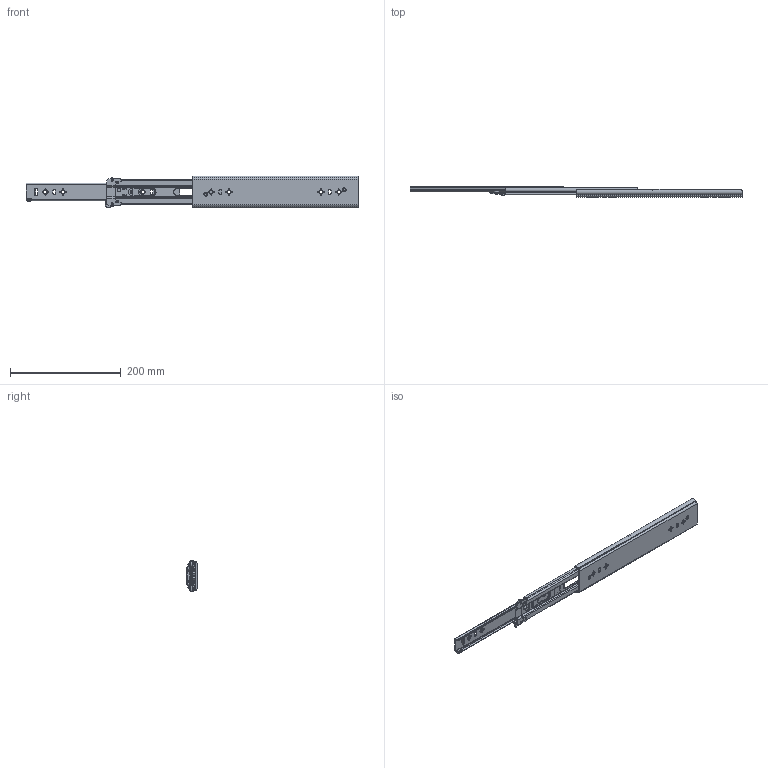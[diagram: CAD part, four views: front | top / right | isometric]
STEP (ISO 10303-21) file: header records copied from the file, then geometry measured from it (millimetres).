
FILE_DESCRIPTION((''),'2;1');
FILE_NAME('1057-C-12_ASM','2025-10-22T',('蔽翩'),(''),'CREO PARAMETRIC BY PTC INC, 2018220','CREO PARAMETRIC BY PTC INC, 2018220','');
FILE_SCHEMA(('CONFIG_CONTROL_DESIGN'));
Length unit declared in the file: millimetre
Products named in the file (20): KP-57-01WEIKE-31____; MAODING-WAI____; 1057DAZHUJIA-20GE1____; 1057ZHUJIADANWEIJIAO123; 1057-5-6GANZHU1____; 1057DAZHUJIA-20GE_11________ASM; 1057-C-20-KE_____ASM; KP-57-01ZHONGGUI-28_________; PEIJIAN-22____; ZHUANJIAO112____; LIUJIAO-DING11____; 1057-XIAOJIAOLUN; PEIJIAN-ZHONG_____ASM; 1057XIAOZHUJIA___20_____; 1057XIAOZHUJIA-20GE______ASM; KP-57-01ZHONGGUI-28__________ASM; KP-57-01NEIGUI-241____; XIN-JIAOGUAN; KP-57-01NEIGUI-241_____ASM; 1057-C-12_ASM
Assembly tree (50 placements, depth 4):
  1057-C-12_ASM
    1057-C-20-KE_____ASM
      KP-57-01WEIKE-31____
      MAODING-WAI____  x2
      1057DAZHUJIA-20GE_11________ASM
        1057DAZHUJIA-20GE1____
        1057ZHUJIADANWEIJIAO123  x2
        1057-5-6GANZHU1____  x12
    KP-57-01ZHONGGUI-28__________ASM
      KP-57-01ZHONGGUI-28_________
      PEIJIAN-ZHONG_____ASM  x2
        PEIJIAN-22____
        ZHUANJIAO112____
        LIUJIAO-DING11____
        1057-XIAOJIAOLUN
      MAODING-WAI____  x2
      1057XIAOZHUJIA-20GE______ASM
        1057XIAOZHUJIA___20_____
        1057-5-6GANZHU1____  x12
        1057ZHUJIADANWEIJIAO123  x2
    KP-57-01NEIGUI-241_____ASM
      KP-57-01NEIGUI-241____
      XIN-JIAOGUAN  x2
Bounding box: 600 x 19.8 x 57.67 mm (x, y, z)
Volume: 121406.1 mm3; surface area: 137020.3 mm2
Topology: 47 solids, 47 shells, 1574 faces, 4264 edges, 2682 vertices
Faces by surface type: plane 708, cylinder 596, torus 96, bspline 66, sphere 54, cone 46, extrusion 8
Entity records: 39246 total; most frequent: CARTESIAN_POINT 9048, DIRECTION 6380, ORIENTED_EDGE 6226, EDGE_CURVE 3113, AXIS2_PLACEMENT_3D 2236, VERTEX_POINT 2003, VECTOR 1908, LINE 1904
